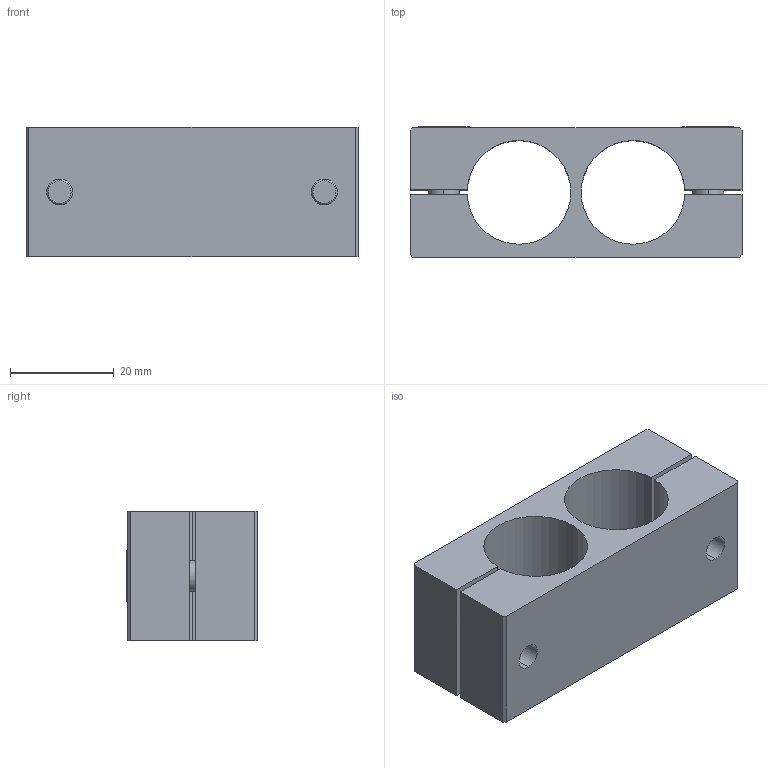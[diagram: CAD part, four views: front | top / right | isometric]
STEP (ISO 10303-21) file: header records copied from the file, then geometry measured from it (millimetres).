
FILE_DESCRIPTION (( 'STEP AP214' ), '1' );
FILE_NAME ('SMBP-2020.STEP', '2019-11-06T05:18:53', ( '微软用户' ), ( '微软中国' ), 'SwSTEP 2.0', 'SolidWorks 2016', '' );
FILE_SCHEMA (( 'AUTOMOTIVE_DESIGN' ));
Length unit declared in the file: millimetre
Products named in the file (1): SMBP-2020
Bounding box: 64 x 25.2 x 25 mm (x, y, z)
Volume: 23159.5 mm3; surface area: 12829.3 mm2
Topology: 5 solids, 5 shells, 369 faces, 1059 edges, 702 vertices
Faces by surface type: plane 326, cylinder 31, cone 8, bspline 4
Entity records: 16352 total; most frequent: CARTESIAN_POINT 2215, DIRECTION 2141, ORIENTED_EDGE 2118, EDGE_CURVE 1059, AXIS2_PLACEMENT_3D 724, VERTEX_POINT 702, VECTOR 693, LINE 693
